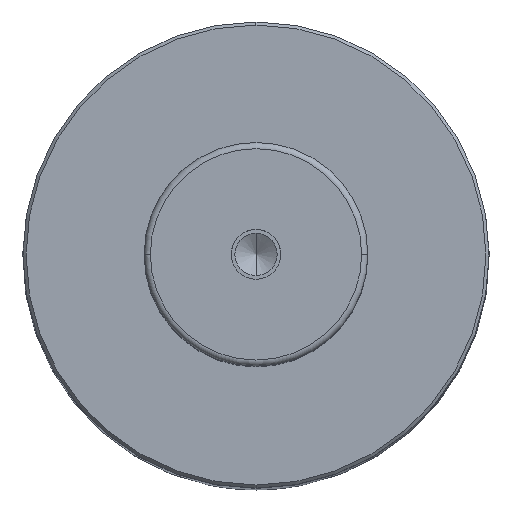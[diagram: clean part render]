
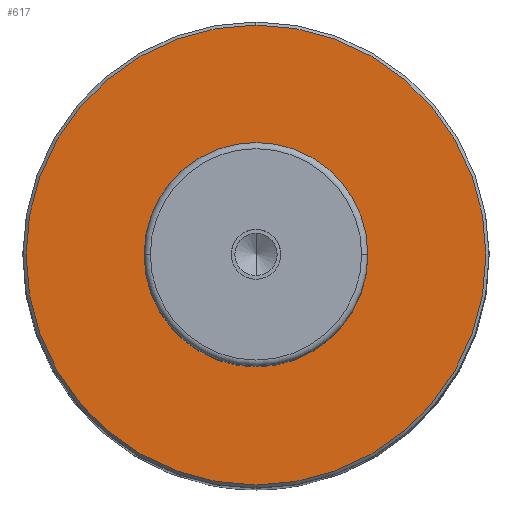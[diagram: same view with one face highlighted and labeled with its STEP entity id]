
A CAD part, top view. The second image highlights one B-rep face of the part: STEP entity #617.
In plain terms, the highlighted planar face has unit normal (0, 0, 1).
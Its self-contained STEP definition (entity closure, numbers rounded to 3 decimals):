
#375 = VERTEX_POINT( '', #1039 );
#431 = VERTEX_POINT( '', #1100 );
#433 = EDGE_CURVE( '', #515, #707, #1102, .T. );
#515 = VERTEX_POINT( '', #1194 );
#559 = EDGE_CURVE( '', #707, #515, #1242, .T. );
#601 = EDGE_CURVE( '', #375, #431, #1287, .T. );
#617 = ADVANCED_FACE( '', ( #1304, #1305 ), #1306, .T. );
#707 = VERTEX_POINT( '', #1408 );
#779 = EDGE_CURVE( '', #431, #375, #1487, .T. );
#1039 = CARTESIAN_POINT( '', ( 0., -18., 171. ) );
#1100 = CARTESIAN_POINT( '', ( 0., 18., 171. ) );
#1102 = CIRCLE( '', #1865, 37. );
#1194 = CARTESIAN_POINT( '', ( 0., 37., 171. ) );
#1242 = CIRCLE( '', #2093, 37. );
#1287 = CIRCLE( '', #2155, 18. );
#1304 = FACE_BOUND( '', #2175, .T. );
#1305 = FACE_OUTER_BOUND( '', #2176, .T. );
#1306 = PLANE( '', #2177 );
#1408 = CARTESIAN_POINT( '', ( 0., -37., 171. ) );
#1487 = CIRCLE( '', #2464, 18. );
#1865 = AXIS2_PLACEMENT_3D( '', #2935, #2936, #2937 );
#2093 = AXIS2_PLACEMENT_3D( '', #3120, #3121, #3122 );
#2155 = AXIS2_PLACEMENT_3D( '', #3175, #3176, #3177 );
#2175 = EDGE_LOOP( '', ( #3192, #3193 ) );
#2176 = EDGE_LOOP( '', ( #3194, #3195 ) );
#2177 = AXIS2_PLACEMENT_3D( '', #3196, #3197, #3198 );
#2464 = AXIS2_PLACEMENT_3D( '', #3410, #3411, #3412 );
#2935 = CARTESIAN_POINT( '', ( 0., 0., 171. ) );
#2936 = DIRECTION( '', ( 0., 0., 1. ) );
#2937 = DIRECTION( '', ( 0., 1., 0. ) );
#3120 = CARTESIAN_POINT( '', ( 0., 0., 171. ) );
#3121 = DIRECTION( '', ( 0., 0., 1. ) );
#3122 = DIRECTION( '', ( 0., 1., 0. ) );
#3175 = CARTESIAN_POINT( '', ( 0., 0., 171. ) );
#3176 = DIRECTION( '', ( 0., 0., 1. ) );
#3177 = DIRECTION( '', ( 0., 1., 0. ) );
#3192 = ORIENTED_EDGE( '', *, *, #779, .F. );
#3193 = ORIENTED_EDGE( '', *, *, #601, .F. );
#3194 = ORIENTED_EDGE( '', *, *, #433, .T. );
#3195 = ORIENTED_EDGE( '', *, *, #559, .T. );
#3196 = CARTESIAN_POINT( '', ( 0., 27.5, 171. ) );
#3197 = DIRECTION( '', ( 0., 0., 1. ) );
#3198 = DIRECTION( '', ( 0., 1., 0. ) );
#3410 = CARTESIAN_POINT( '', ( 0., 0., 171. ) );
#3411 = DIRECTION( '', ( 0., 0., 1. ) );
#3412 = DIRECTION( '', ( 0., 1., 0. ) );
